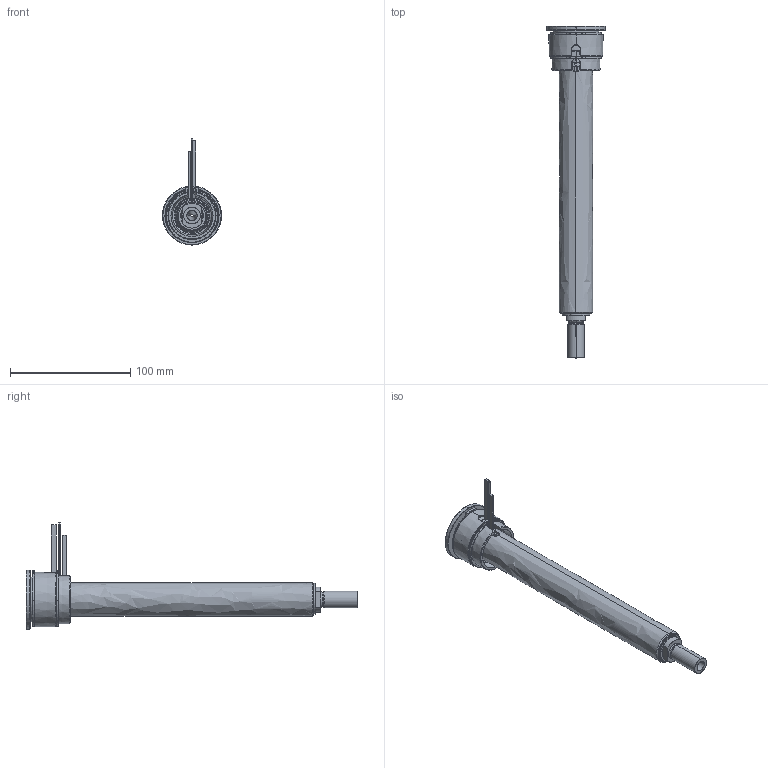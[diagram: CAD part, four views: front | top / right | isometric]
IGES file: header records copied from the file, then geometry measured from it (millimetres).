
Start section: SolidWorks IGES file using analytic representation for surfaces
Global section: file name: C:\Documents and Settings\ws-20\Desktop\TEM\UGBE4505-S-A-P-5 [Ød-2.5 P-25 ØC-09].IGS; native system: SolidWorks 2012; preprocessor: SolidWorks 2012; author: ws-20; date: 120412.153755; units: millimetre
Bounding box: 49 x 276 x 88.15 mm (x, y, z)
Surface area: 85058.5 mm2 (no closed solid volume)
Topology: 0 solids, 0 shells, 165 faces, 3143 edges, 3143 vertices
Faces by surface type: revolution 106, bspline 59
